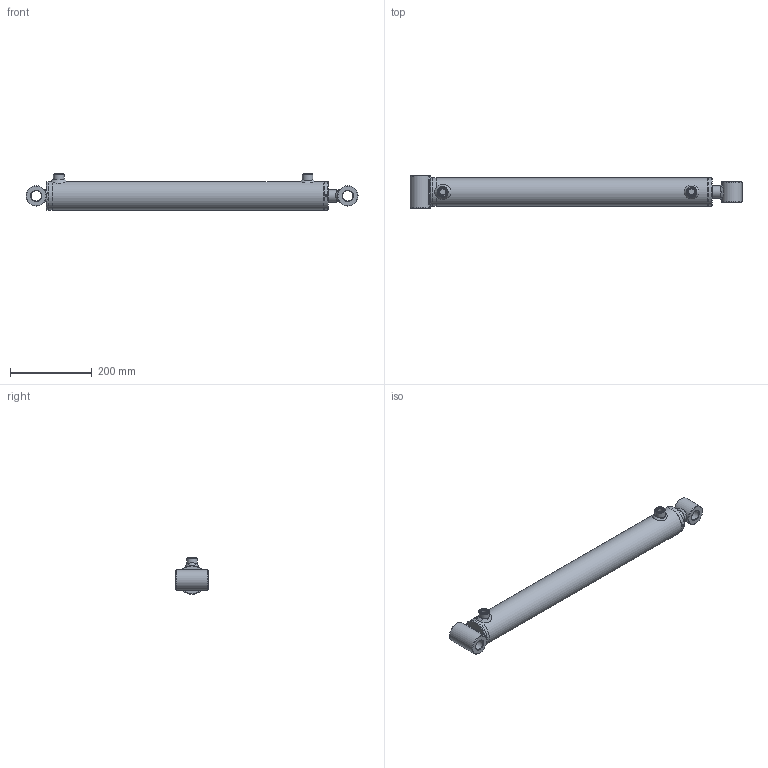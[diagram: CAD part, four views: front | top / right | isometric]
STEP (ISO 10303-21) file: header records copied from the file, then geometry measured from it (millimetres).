
FILE_DESCRIPTION( ( 'Unknown' ), '1' );
FILE_NAME( 'E:/LIBRERIA_3d/CILINDRI/HM2/HM23300550.stp', 'Unknown', ( 'Unknown' ), ( 'Unknown' ), 'PSStep 17.0.49', 'Unknown', ' ' );
FILE_SCHEMA( ( 'AUTOMOTIVE_DESIGN { 1 0 10303 214 1 1 1 1 }' ) );
Length unit declared in the file: millimetre
Products named in the file (26): CG07006030; STL3500550-oa6; Saldatura d'angolo 1-oa4; FTM3500550-oa5; CBSC220600; CT00060020; HM03300550; Saldatura con preparazione 1-oa2; Saldatura d'angolo 1-oa3; CF00060070; CBS0600000; CDA0002015; APG0600000; SBL3030550; Assem1; CB25050050; CB25050080; Saldatura d'angolo 1-oa0; Saldatura d'angolo 2-oa1
Assembly tree (18 placements, depth 4):
  Saldatura d'angolo 1-oa4
  Saldatura d'angolo 1-oa4
  Saldatura d'angolo 1-oa3
  Saldatura d'angolo 1-oa3
  Assem1
    CB25050050
    CB25050080
    HM03300550
      Saldatura con preparazione 1-oa2
      Saldatura con preparazione 1-oa2
      CF00060070
      CBS0600000
      CDA0002015
      APG0600000  x2
      SBL3030550
      CG07006030
        CG07006030
      CT00060020
        CT00060020
      STL3500550-oa6
        FTM3500550-oa5
        CBSC220600
Bounding box: 810 x 80 x 89 mm (x, y, z)
Volume: 1610806.9 mm3; surface area: 462765 mm2
Topology: 22 solids, 22 shells, 289 faces, 595 edges, 355 vertices
Faces by surface type: bspline 78, plane 74, cylinder 59, cone 40, torus 38
Full cylindrical faces by diameter (mm): 4.25 x1, 5 x2, 6 x2, 7 x2, 14.95 x2, 16 x2, 16.6 x2, 19.4 x1, 20 x5, 22 x2, 24.5 x1, 25.25 x2, 26 x2, 30 x5, 32 x1, 33 x1, 38.6 x1, 40 x1, 44 x1, 50 x2, 55 x1, 55.39 x2, 58.65 x2, 59.9 x1, 60 x1, 60.3 x1, 60.5 x1, 60.6 x1, 61 x1, 62 x3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
Entity records: 17922 total; most frequent: CARTESIAN_POINT 10926, DIRECTION 850, ORIENTED_EDGE 796, EDGE_LOOP 458, AXIS2_PLACEMENT_3D 407, EDGE_CURVE 398, FACE_OUTER_BOUND 376, VERTEX_POINT 305
